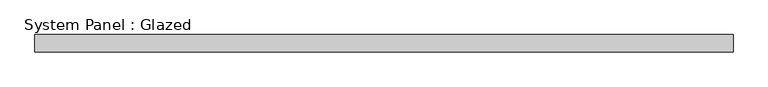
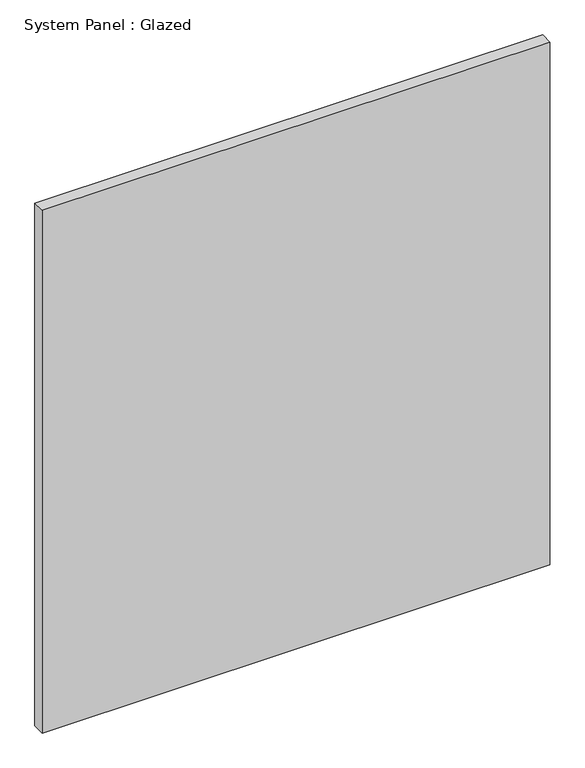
"""IFC4 building model written with IfcOpenShell, lengths in millimetres: plate geometry, System Panel : Glazed."""

from ifc_helpers import new_model, si_unit, origin, origin_with_axes, place, context, project, spatial, polyline, outline, extrude, source, transform, mapped, element, save


def system_panel_glazed_e2c07b03(model_context):
    return source(origin(), model_context, "Body", "SweptSolid", [
        extrude(outline(polyline([(516.2550001, -44.45), (-516.2550001, -44.45), (-516.2550001, -19.05), (516.2550001, -19.05), (516.2550001, -44.45)])), origin_with_axes(), (0.0, 0.0, 1.0), 1123.95),
    ])


if __name__ == "__main__":
    model = new_model("IFC4")
    model_context = context("Model", 3, world=origin())
    ifc_project = project(units=[si_unit("LENGTHUNIT", "METRE", prefix="MILLI")], contexts=[model_context])
    site = spatial("IfcSite", under=ifc_project)
    building = spatial("IfcBuilding", under=site)
    placement = place(None, origin())
    system_panel_glazed_shape = system_panel_glazed_e2c07b03(model_context)
    element("IfcPlate", 1, ObjectType="System Panel : Glazed", at=placement, inside=building, context=model_context, shape_type="MappedRepresentation", body=[
        mapped(system_panel_glazed_shape, transform((0.0, 0.0, 0.0), x_axis=(1.0, 0.0, 0.0), y_axis=(0.0, 1.0, 0.0), z_axis=(0.0, 0.0, 1.0))),
    ])
    save(model, "model.ifc")
